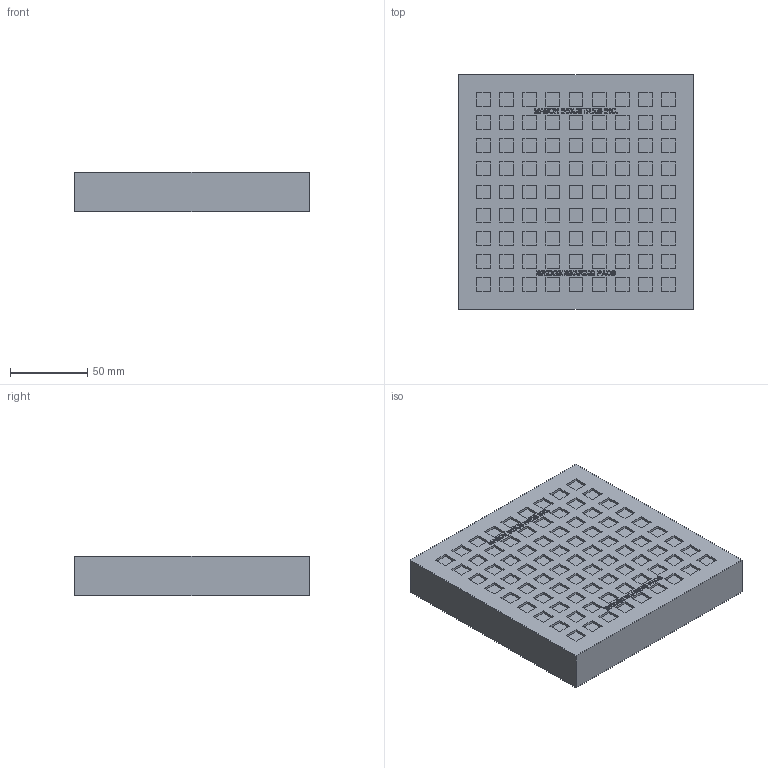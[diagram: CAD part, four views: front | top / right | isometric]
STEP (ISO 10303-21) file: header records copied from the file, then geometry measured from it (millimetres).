
FILE_DESCRIPTION(/* description */ (''),/* implementation_level */ '2;1');
FILE_NAME(/* name */ 'C:\001_Work\Designs\BBNR\BBNR 6 x 6 x 1.stp',/* time_stamp */ '2015-08-20T16:18:23-04:00',/* author */ ('rramoutar'),/* organization */ ('Mason Industries Inc.'),/* preprocessor_version */ 'ST-DEVELOPER v15.6',/* originating_system */ 'Autodesk Inventor 2015',/* authorisation */ '');
FILE_SCHEMA (('AUTOMOTIVE_DESIGN { 1 0 10303 214 3 1 1 }'));
Products named in the file (1): BBNR 6 x 6 x 1
Bounding box: 152.4 x 152.4 x 25.8 mm (x, y, z)
Volume: 569147.7 mm3; surface area: 71423.5 mm2
Topology: 1 solids, 1 shells, 1788 faces, 4566 edges, 3044 vertices
Faces by surface type: plane 1436, bspline 352
Entity records: 56663 total; most frequent: CARTESIAN_POINT 15538, ORIENTED_EDGE 9132, DIRECTION 6736, EDGE_CURVE 4566, LINE 3862, VECTOR 3862, VERTEX_POINT 3044, EDGE_LOOP 2052
